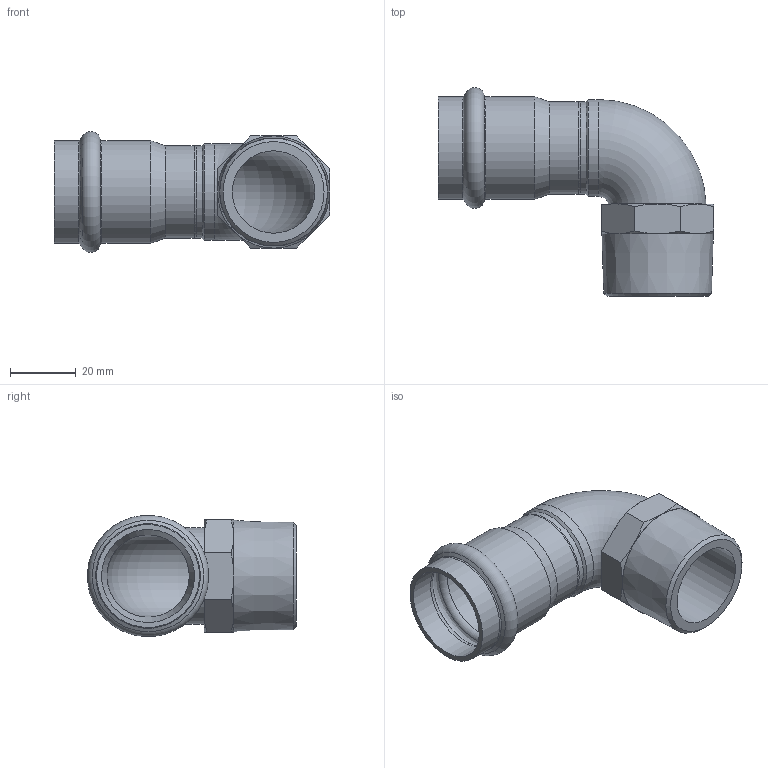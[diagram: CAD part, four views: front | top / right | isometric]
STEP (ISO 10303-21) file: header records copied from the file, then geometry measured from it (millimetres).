
FILE_DESCRIPTION((''),'2;1');
FILE_NAME('G:\Nirosan-Schmiedefeld\Technics\CAD\Bauteile VA\028\69092AG281(4).stp','2010-08-04T10:08:34',('herberg'),(''),'Autodesk Inventor 2009','Autodesk Inventor 2009','');
FILE_SCHEMA(('AUTOMOTIVE_DESIGN { 1 0 10303 214 1 1 1 1 }'));
Length unit declared in the file: millimetre
Products named in the file (3): 69092AG281(4); G_69092AG281(0); 6924328HM(1)
Assembly tree (2 placements, depth 2):
  69092AG281(4)
    G_69092AG281(0)
    6924328HM(1)
Bounding box: 83.5 x 63.34 x 36.67 mm (x, y, z)
Volume: 23722.7 mm3; surface area: 20377.4 mm2
Topology: 2 solids, 2 shells, 53 faces, 110 edges, 63 vertices
Faces by surface type: cone 21, plane 14, cylinder 10, torus 5, bspline 3
Full cylindrical faces by diameter (mm): 25 x3, 28 x2, 28.2 x2, 29.4 x1, 31.2 x2
Entity records: 1617 total; most frequent: CARTESIAN_POINT 591, DIRECTION 207, ORIENTED_EDGE 166, AXIS2_PLACEMENT_3D 98, EDGE_LOOP 84, EDGE_CURVE 83, VERTEX_POINT 61, FACE_OUTER_BOUND 53
